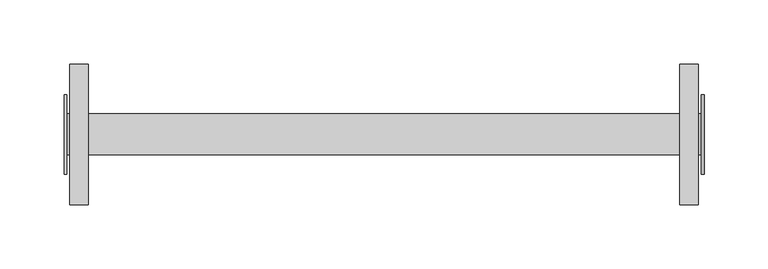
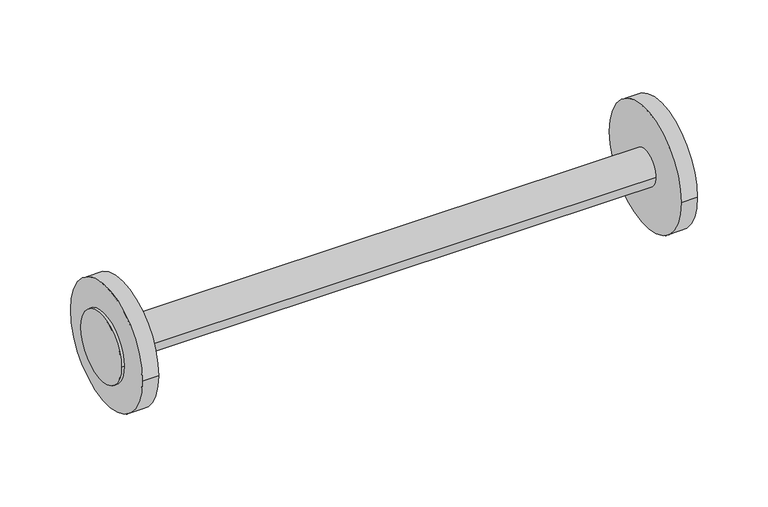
"""IFC4 building model written with IfcOpenShell, lengths in millimetres: pipe fitting geometry, Plumbing-Pipe-Fittings_Pexgol_Flange_Flared-Ends : Both sides Flared end."""

from ifc_helpers import new_model, si_unit, point, frame, origin, origin_2d, place, context, project, spatial, circle_curve, trimmed, segment, composite_curve, outline, extrude, source, transform, mapped, element, save
from ifc_brep_helpers import plane_surface, cylinder_surface, advanced_brep


def pipe_fitting_e85de60f(model_context):
    return source(origin(), model_context, "Body", "SolidModel", [
        advanced_brep(
        [(497.6727273, -31.0, 0.0), (497.6727273, 31.0, 0.0), (497.6727273, -16.0, 0.0), (497.6727273, 16.0, 0.0), (500.0, -31.0, 0.0), (500.0, 31.0, 0.0), (2.3272727, -16.0, 0.0), (2.3272727, 16.0, 0.0)],
        [
            (0, 1, circle_curve(frame((497.6727273, 0.0, 0.0), z_axis=(-1.0, 0.0, 0.0), x_axis=(0.0, 1.0, 0.0)), 31.0)),
            (1, 0, circle_curve(frame((497.6727273, 0.0, 0.0), z_axis=(-1.0, 0.0, 0.0), x_axis=(0.0, 1.0, 0.0)), 31.0)),
            (2, 3, circle_curve(frame((497.6727273, 0.0, 0.0), z_axis=(1.0, 0.0, 0.0), x_axis=(0.0, 1.0, 0.0)), 16.0)),
            (3, 2, circle_curve(frame((497.6727273, 0.0, 0.0), z_axis=(1.0, 0.0, 0.0), x_axis=(0.0, 1.0, 0.0)), 16.0)),
            (4, 5, circle_curve(frame((500.0, 0.0, 0.0), z_axis=(1.0, 0.0, 0.0), x_axis=(0.0, 1.0, 0.0)), 31.0)),
            (5, 4, circle_curve(frame((500.0, 0.0, 0.0), z_axis=(1.0, 0.0, 0.0), x_axis=(0.0, 1.0, 0.0)), 31.0)),
            (1, 5),
            (4, 0),
            (6, 7, circle_curve(frame((2.3272727, 0.0, 0.0), z_axis=(-1.0, 0.0, 0.0), x_axis=(0.0, 1.0, 0.0)), 16.0)),
            (7, 6, circle_curve(frame((2.3272727, 0.0, 0.0), z_axis=(-1.0, 0.0, 0.0), x_axis=(0.0, 1.0, 0.0)), 16.0)),
            (7, 3),
            (2, 6),
        ],
        [
            plane_surface(frame((497.6727273, 31.0, 0.0), z_axis=(-1.0, 0.0, 0.0), x_axis=(0.0, 0.0, -1.0))),
            plane_surface(frame((500.0, 31.0, 0.0), z_axis=(1.0, 0.0, 0.0), x_axis=(0.0, 0.0, 1.0))),
            cylinder_surface(frame((500.0, 0.0, 0.0), z_axis=(-1.0, 0.0, 0.0), x_axis=(0.0, 1.0, 0.0)), 31.0),
            plane_surface(frame((2.3272727, 16.0, 0.0), z_axis=(-1.0, 0.0, 0.0), x_axis=(0.0, 0.0, -1.0))),
            cylinder_surface(frame((2.3272727, 0.0, 0.0), z_axis=(1.0, 0.0, 0.0), x_axis=(0.0, 1.0, 0.0)), 16.0),
        ],
        [
            (0, [[1, 2], [3, 4]]),
            (1, [[5, 6]]),
            (2, [[-2, 7, -5, 8]]),
            (2, [[-1, -8, -6, -7]]),
            (3, [[9, 10]]),
            (4, [[-10, 11, -3, 12]]),
            (4, [[-9, -12, -4, -11]]),
        ],
    ),
        extrude(outline(composite_curve([segment(trimmed(circle_curve(origin_2d(), 55.0), [point((-55.0, 0.0))], [point((55.0, 0.0))], False, "CARTESIAN"), True, "CONTINUOUS"), segment(trimmed(circle_curve(origin_2d(), 55.0), [point((55.0, 0.0))], [point((-55.0, 0.0))], False, "CARTESIAN"), True, "CONTINUOUS")], self_intersect=False)), frame((481.0454545, 0.0, 0.0), z_axis=(1.0, 0.0, 0.0), x_axis=(0.0, 1.0, 0.0)), (0.0, 0.0, 1.0), 14.3),
        extrude(outline(composite_curve([segment(trimmed(circle_curve(origin_2d(), 55.0), [point((-55.0, 0.0))], [point((55.0, 0.0))], False, "CARTESIAN"), True, "CONTINUOUS"), segment(trimmed(circle_curve(origin_2d(), 55.0), [point((55.0, 0.0))], [point((-55.0, 0.0))], False, "CARTESIAN"), True, "CONTINUOUS")], self_intersect=False)), frame((4.654546, 0.0, 0.0), z_axis=(1.0, 0.0, 0.0), x_axis=(0.0, 1.0, 0.0)), (0.0, 0.0, 1.0), 14.3),
        extrude(outline(composite_curve([segment(trimmed(circle_curve(origin_2d(), 31.0), [point((-31.0, 0.0))], [point((31.0, 0.0))], False, "CARTESIAN"), True, "CONTINUOUS"), segment(trimmed(circle_curve(origin_2d(), 31.0), [point((31.0, 0.0))], [point((-31.0, 0.0))], False, "CARTESIAN"), True, "CONTINUOUS")], self_intersect=False)), frame((0.0, 0.0, 0.0), z_axis=(1.0, 0.0, 0.0), x_axis=(0.0, 1.0, 0.0)), (0.0, 0.0, 1.0), 2.327273),
    ])


if __name__ == "__main__":
    model = new_model("IFC4")
    model_context = context("Model", 3, world=origin())
    ifc_project = project(units=[si_unit("LENGTHUNIT", "METRE", prefix="MILLI")], contexts=[model_context])
    site = spatial("IfcSite", under=ifc_project)
    building = spatial("IfcBuilding", under=site)
    placement = place(None, origin())
    pipe_fitting_shape = pipe_fitting_e85de60f(model_context)
    element("IfcPipeFitting", 1, ObjectType="Plumbing-Pipe-Fittings_Pexgol_Flange_Flared-Ends : Both sides Flared end", at=placement, inside=building, context=model_context, shape_type="MappedRepresentation", body=[
        mapped(pipe_fitting_shape, transform((0.0, 0.0, 0.0), x_axis=(1.0, 0.0, 0.0), y_axis=(0.0, 1.0, 0.0), z_axis=(0.0, 0.0, 1.0))),
    ])
    save(model, "model.ifc")
